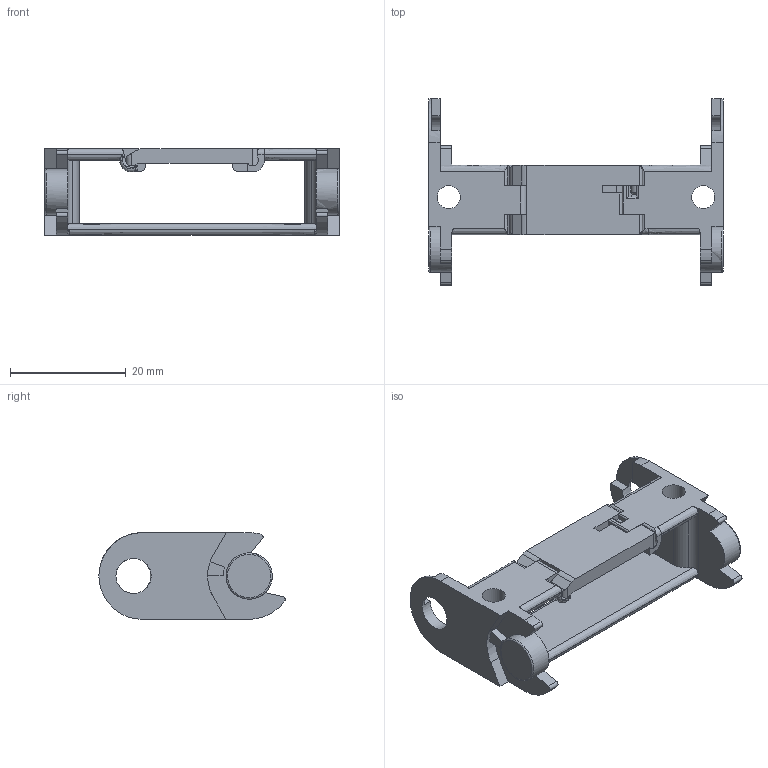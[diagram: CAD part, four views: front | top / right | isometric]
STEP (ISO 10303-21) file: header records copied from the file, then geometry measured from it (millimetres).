
FILE_DESCRIPTION((''),'2;1');
FILE_NAME('C:\Uebbing\PARAMETERKETTEN\KOLIBRI\Kol_15_051_0\Kol_15_051_0.stp','2011-11-02T11:07:08',('Uebbing'),(''),'Autodesk Inventor 10','Autodesk Inventor 10','');
FILE_SCHEMA(('AUTOMOTIVE_DESIGN { 1 0 10303 214 1 1 1 1 }'));
Length unit declared in the file: millimetre
Products named in the file (3): Kol_15_051_0; Kol_15_051_0DECKEL01
Assembly tree (2 placements, depth 2):
  Kol_15_051_0
    Kol_15_051_0
    Kol_15_051_0DECKEL01
Bounding box: 51 x 32.22 x 15 mm (x, y, z)
Volume: 4501.1 mm3; surface area: 5227.9 mm2
Topology: 2 solids, 2 shells, 229 faces, 649 edges, 415 vertices
Faces by surface type: bspline 118, plane 68, cylinder 39, cone 4
Full cylindrical faces by diameter (mm): 2 x4, 6.1 x1, 8 x1
Entity records: 11407 total; most frequent: CARTESIAN_POINT 5748, ORIENTED_EDGE 1262, DIRECTION 1044, EDGE_CURVE 631, VERTEX_POINT 414, VECTOR 374, LINE 374, AXIS2_PLACEMENT_3D 335
